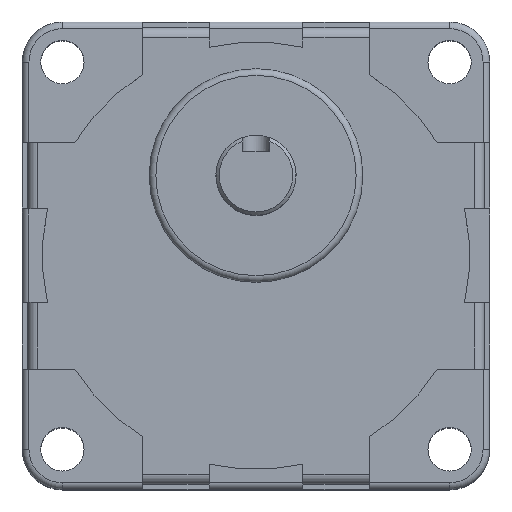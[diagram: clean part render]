
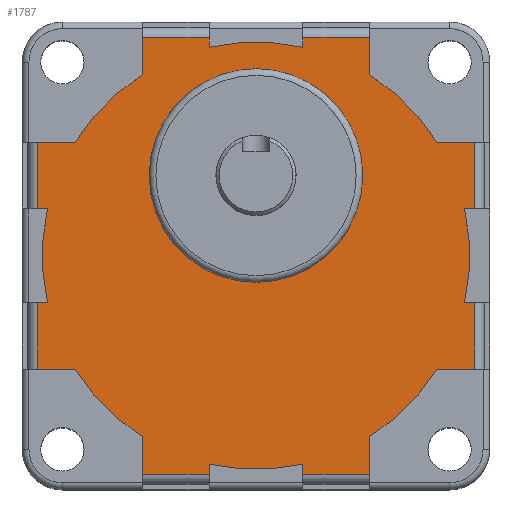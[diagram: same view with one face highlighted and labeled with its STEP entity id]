
A CAD part, top view. The second image highlights one B-rep face of the part: STEP entity #1787.
In plain terms, the highlighted planar face has unit normal (0, 0, 1).
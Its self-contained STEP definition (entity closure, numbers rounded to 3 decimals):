
#36=LINE('',#2727,#208);
#40=LINE('',#2739,#212);
#42=LINE('',#2745,#214);
#43=LINE('',#2749,#215);
#44=LINE('',#2751,#216);
#45=LINE('',#2753,#217);
#46=LINE('',#2757,#218);
#47=LINE('',#2759,#219);
#48=LINE('',#2761,#220);
#49=LINE('',#2765,#221);
#50=LINE('',#2767,#222);
#51=LINE('',#2769,#223);
#52=LINE('',#2773,#224);
#53=LINE('',#2775,#225);
#54=LINE('',#2777,#226);
#55=LINE('',#2781,#227);
#56=LINE('',#2783,#228);
#57=LINE('',#2785,#229);
#58=LINE('',#2789,#230);
#59=LINE('',#2791,#231);
#60=LINE('',#2793,#232);
#61=LINE('',#2796,#233);
#62=LINE('',#2798,#234);
#63=LINE('',#2801,#235);
#208=VECTOR('',#2156,10.);
#212=VECTOR('',#2166,10.);
#214=VECTOR('',#2172,5.589);
#215=VECTOR('',#2175,5.589);
#216=VECTOR('',#2176,10.);
#217=VECTOR('',#2177,1.475);
#218=VECTOR('',#2180,1.475);
#219=VECTOR('',#2181,10.);
#220=VECTOR('',#2182,5.589);
#221=VECTOR('',#2185,5.589);
#222=VECTOR('',#2186,10.);
#223=VECTOR('',#2187,1.475);
#224=VECTOR('',#2190,1.475);
#225=VECTOR('',#2191,10.);
#226=VECTOR('',#2192,5.589);
#227=VECTOR('',#2195,5.589);
#228=VECTOR('',#2196,10.);
#229=VECTOR('',#2197,1.475);
#230=VECTOR('',#2200,1.475);
#231=VECTOR('',#2201,10.);
#232=VECTOR('',#2202,5.589);
#233=VECTOR('',#2205,5.589);
#234=VECTOR('',#2206,1.475);
#235=VECTOR('',#2209,1.475);
#377=PLANE('',#1915);
#475=FACE_BOUND('',#620,.T.);
#504=FACE_OUTER_BOUND('',#619,.T.);
#619=EDGE_LOOP('',(#1313,#1314,#1315,#1316,#1317,#1318,#1319,#1320,#1321,
#1322,#1323,#1324,#1325,#1326,#1327,#1328,#1329,#1330,#1331,#1332,#1333,
#1334,#1335,#1336,#1337,#1338,#1339,#1340,#1341,#1342,#1343,#1344));
#620=EDGE_LOOP('',(#1345));
#729=CIRCLE('',#1906,16.);
#734=CIRCLE('',#1916,32.);
#735=CIRCLE('',#1917,32.);
#736=CIRCLE('',#1918,32.);
#737=CIRCLE('',#1919,32.);
#738=CIRCLE('',#1920,32.);
#739=CIRCLE('',#1921,32.);
#740=CIRCLE('',#1922,32.);
#741=CIRCLE('',#1923,32.);
#828=VERTEX_POINT('',#2716);
#829=VERTEX_POINT('',#2720);
#832=VERTEX_POINT('',#2725);
#836=VERTEX_POINT('',#2736);
#837=VERTEX_POINT('',#2738);
#839=VERTEX_POINT('',#2744);
#840=VERTEX_POINT('',#2746);
#841=VERTEX_POINT('',#2748);
#842=VERTEX_POINT('',#2750);
#843=VERTEX_POINT('',#2752);
#844=VERTEX_POINT('',#2754);
#845=VERTEX_POINT('',#2756);
#846=VERTEX_POINT('',#2758);
#847=VERTEX_POINT('',#2760);
#848=VERTEX_POINT('',#2762);
#849=VERTEX_POINT('',#2764);
#850=VERTEX_POINT('',#2766);
#851=VERTEX_POINT('',#2768);
#852=VERTEX_POINT('',#2770);
#853=VERTEX_POINT('',#2772);
#854=VERTEX_POINT('',#2774);
#855=VERTEX_POINT('',#2776);
#856=VERTEX_POINT('',#2778);
#857=VERTEX_POINT('',#2780);
#858=VERTEX_POINT('',#2782);
#859=VERTEX_POINT('',#2784);
#860=VERTEX_POINT('',#2786);
#861=VERTEX_POINT('',#2788);
#862=VERTEX_POINT('',#2790);
#863=VERTEX_POINT('',#2792);
#864=VERTEX_POINT('',#2794);
#865=VERTEX_POINT('',#2797);
#866=VERTEX_POINT('',#2799);
#1012=EDGE_CURVE('',#828,#828,#729,.T.);
#1016=EDGE_CURVE('',#832,#829,#36,.T.);
#1021=EDGE_CURVE('',#836,#837,#40,.T.);
#1024=EDGE_CURVE('',#832,#839,#42,.T.);
#1025=EDGE_CURVE('',#840,#839,#734,.T.);
#1026=EDGE_CURVE('',#841,#840,#43,.T.);
#1027=EDGE_CURVE('',#842,#841,#44,.T.);
#1028=EDGE_CURVE('',#843,#842,#45,.T.);
#1029=EDGE_CURVE('',#844,#843,#735,.T.);
#1030=EDGE_CURVE('',#844,#845,#46,.T.);
#1031=EDGE_CURVE('',#846,#845,#47,.T.);
#1032=EDGE_CURVE('',#846,#847,#48,.T.);
#1033=EDGE_CURVE('',#848,#847,#736,.T.);
#1034=EDGE_CURVE('',#849,#848,#49,.T.);
#1035=EDGE_CURVE('',#850,#849,#50,.T.);
#1036=EDGE_CURVE('',#851,#850,#51,.T.);
#1037=EDGE_CURVE('',#852,#851,#737,.T.);
#1038=EDGE_CURVE('',#852,#853,#52,.T.);
#1039=EDGE_CURVE('',#854,#853,#53,.T.);
#1040=EDGE_CURVE('',#854,#855,#54,.T.);
#1041=EDGE_CURVE('',#856,#855,#738,.T.);
#1042=EDGE_CURVE('',#857,#856,#55,.T.);
#1043=EDGE_CURVE('',#858,#857,#56,.T.);
#1044=EDGE_CURVE('',#859,#858,#57,.T.);
#1045=EDGE_CURVE('',#860,#859,#739,.T.);
#1046=EDGE_CURVE('',#860,#861,#58,.T.);
#1047=EDGE_CURVE('',#862,#861,#59,.T.);
#1048=EDGE_CURVE('',#862,#863,#60,.T.);
#1049=EDGE_CURVE('',#864,#863,#740,.T.);
#1050=EDGE_CURVE('',#837,#864,#61,.T.);
#1051=EDGE_CURVE('',#865,#836,#62,.T.);
#1052=EDGE_CURVE('',#866,#865,#741,.T.);
#1053=EDGE_CURVE('',#866,#829,#63,.T.);
#1313=ORIENTED_EDGE('',*,*,#1016,.F.);
#1314=ORIENTED_EDGE('',*,*,#1024,.T.);
#1315=ORIENTED_EDGE('',*,*,#1025,.F.);
#1316=ORIENTED_EDGE('',*,*,#1026,.F.);
#1317=ORIENTED_EDGE('',*,*,#1027,.F.);
#1318=ORIENTED_EDGE('',*,*,#1028,.F.);
#1319=ORIENTED_EDGE('',*,*,#1029,.F.);
#1320=ORIENTED_EDGE('',*,*,#1030,.T.);
#1321=ORIENTED_EDGE('',*,*,#1031,.F.);
#1322=ORIENTED_EDGE('',*,*,#1032,.T.);
#1323=ORIENTED_EDGE('',*,*,#1033,.F.);
#1324=ORIENTED_EDGE('',*,*,#1034,.F.);
#1325=ORIENTED_EDGE('',*,*,#1035,.F.);
#1326=ORIENTED_EDGE('',*,*,#1036,.F.);
#1327=ORIENTED_EDGE('',*,*,#1037,.F.);
#1328=ORIENTED_EDGE('',*,*,#1038,.T.);
#1329=ORIENTED_EDGE('',*,*,#1039,.F.);
#1330=ORIENTED_EDGE('',*,*,#1040,.T.);
#1331=ORIENTED_EDGE('',*,*,#1041,.F.);
#1332=ORIENTED_EDGE('',*,*,#1042,.F.);
#1333=ORIENTED_EDGE('',*,*,#1043,.F.);
#1334=ORIENTED_EDGE('',*,*,#1044,.F.);
#1335=ORIENTED_EDGE('',*,*,#1045,.F.);
#1336=ORIENTED_EDGE('',*,*,#1046,.T.);
#1337=ORIENTED_EDGE('',*,*,#1047,.F.);
#1338=ORIENTED_EDGE('',*,*,#1048,.T.);
#1339=ORIENTED_EDGE('',*,*,#1049,.F.);
#1340=ORIENTED_EDGE('',*,*,#1050,.F.);
#1341=ORIENTED_EDGE('',*,*,#1021,.F.);
#1342=ORIENTED_EDGE('',*,*,#1051,.F.);
#1343=ORIENTED_EDGE('',*,*,#1052,.F.);
#1344=ORIENTED_EDGE('',*,*,#1053,.T.);
#1345=ORIENTED_EDGE('',*,*,#1012,.F.);
#1787=ADVANCED_FACE('',(#504,#475),#377,.T.);
#1906=AXIS2_PLACEMENT_3D('',#2717,#2145,#2146);
#1915=AXIS2_PLACEMENT_3D('',#2743,#2170,#2171);
#1916=AXIS2_PLACEMENT_3D('',#2747,#2173,#2174);
#1917=AXIS2_PLACEMENT_3D('',#2755,#2178,#2179);
#1918=AXIS2_PLACEMENT_3D('',#2763,#2183,#2184);
#1919=AXIS2_PLACEMENT_3D('',#2771,#2188,#2189);
#1920=AXIS2_PLACEMENT_3D('',#2779,#2193,#2194);
#1921=AXIS2_PLACEMENT_3D('',#2787,#2198,#2199);
#1922=AXIS2_PLACEMENT_3D('',#2795,#2203,#2204);
#1923=AXIS2_PLACEMENT_3D('',#2800,#2207,#2208);
#2145=DIRECTION('center_axis',(0.,0.,1.));
#2146=DIRECTION('ref_axis',(-1.,0.,0.));
#2156=DIRECTION('',(0.,-1.,0.));
#2166=DIRECTION('',(0.,-1.,0.));
#2170=DIRECTION('center_axis',(0.,0.,1.));
#2171=DIRECTION('ref_axis',(1.,0.,0.));
#2172=DIRECTION('',(-1.,0.,0.));
#2173=DIRECTION('center_axis',(0.,0.,-1.));
#2174=DIRECTION('ref_axis',(-1.,0.,0.));
#2175=DIRECTION('',(0.,-1.,0.));
#2176=DIRECTION('',(1.,0.,0.));
#2177=DIRECTION('',(0.,1.,0.));
#2178=DIRECTION('center_axis',(0.,0.,-1.));
#2179=DIRECTION('ref_axis',(-1.,0.,0.));
#2180=DIRECTION('',(0.,1.,0.));
#2181=DIRECTION('',(1.,0.,0.));
#2182=DIRECTION('',(0.,-1.,0.));
#2183=DIRECTION('center_axis',(0.,0.,-1.));
#2184=DIRECTION('ref_axis',(-1.,0.,0.));
#2185=DIRECTION('',(1.,0.,0.));
#2186=DIRECTION('',(0.,1.,0.));
#2187=DIRECTION('',(-1.,0.,0.));
#2188=DIRECTION('center_axis',(0.,0.,-1.));
#2189=DIRECTION('ref_axis',(-1.,0.,0.));
#2190=DIRECTION('',(-1.,0.,0.));
#2191=DIRECTION('',(0.,1.,0.));
#2192=DIRECTION('',(1.,0.,0.));
#2193=DIRECTION('center_axis',(0.,0.,-1.));
#2194=DIRECTION('ref_axis',(-1.,0.,0.));
#2195=DIRECTION('',(0.,1.,0.));
#2196=DIRECTION('',(-1.,0.,0.));
#2197=DIRECTION('',(0.,-1.,0.));
#2198=DIRECTION('center_axis',(0.,0.,-1.));
#2199=DIRECTION('ref_axis',(-1.,0.,0.));
#2200=DIRECTION('',(0.,-1.,0.));
#2201=DIRECTION('',(-1.,0.,0.));
#2202=DIRECTION('',(0.,1.,0.));
#2203=DIRECTION('center_axis',(0.,0.,-1.));
#2204=DIRECTION('ref_axis',(-1.,0.,0.));
#2205=DIRECTION('',(-1.,0.,0.));
#2206=DIRECTION('',(1.,0.,0.));
#2207=DIRECTION('center_axis',(0.,0.,-1.));
#2208=DIRECTION('ref_axis',(-1.,0.,0.));
#2209=DIRECTION('',(1.,0.,0.));
#2716=CARTESIAN_POINT('',(16.,12.,47.2));
#2717=CARTESIAN_POINT('Origin',(0.,12.,47.2));
#2720=CARTESIAN_POINT('',(32.7,7.,47.2));
#2725=CARTESIAN_POINT('',(32.7,17.,47.2));
#2727=CARTESIAN_POINT('',(32.7,8.5,47.2));
#2736=CARTESIAN_POINT('',(32.7,-7.,47.2));
#2738=CARTESIAN_POINT('',(32.7,-17.,47.2));
#2739=CARTESIAN_POINT('',(32.7,-8.5,47.2));
#2743=CARTESIAN_POINT('Origin',(0.,0.,47.2));
#2744=CARTESIAN_POINT('',(27.111,17.,47.2));
#2745=CARTESIAN_POINT('',(27.111,17.,47.2));
#2746=CARTESIAN_POINT('',(17.,27.111,47.2));
#2747=CARTESIAN_POINT('Origin',(0.,0.,47.2));
#2748=CARTESIAN_POINT('',(17.,32.7,47.2));
#2749=CARTESIAN_POINT('',(17.,27.111,47.2));
#2750=CARTESIAN_POINT('',(7.,32.7,47.2));
#2751=CARTESIAN_POINT('',(8.5,32.7,47.2));
#2752=CARTESIAN_POINT('',(7.,31.225,47.2));
#2753=CARTESIAN_POINT('',(7.,35.,47.2));
#2754=CARTESIAN_POINT('',(-7.,31.225,47.2));
#2755=CARTESIAN_POINT('Origin',(0.,0.,47.2));
#2756=CARTESIAN_POINT('',(-7.,32.7,47.2));
#2757=CARTESIAN_POINT('',(-7.,35.,47.2));
#2758=CARTESIAN_POINT('',(-17.,32.7,47.2));
#2759=CARTESIAN_POINT('',(-8.5,32.7,47.2));
#2760=CARTESIAN_POINT('',(-17.,27.111,47.2));
#2761=CARTESIAN_POINT('',(-17.,27.111,47.2));
#2762=CARTESIAN_POINT('',(-27.111,17.,47.2));
#2763=CARTESIAN_POINT('Origin',(0.,0.,47.2));
#2764=CARTESIAN_POINT('',(-32.7,17.,47.2));
#2765=CARTESIAN_POINT('',(-27.111,17.,47.2));
#2766=CARTESIAN_POINT('',(-32.7,7.,47.2));
#2767=CARTESIAN_POINT('',(-32.7,8.5,47.2));
#2768=CARTESIAN_POINT('',(-31.225,7.,47.2));
#2769=CARTESIAN_POINT('',(-35.,7.,47.2));
#2770=CARTESIAN_POINT('',(-31.225,-7.,47.2));
#2771=CARTESIAN_POINT('Origin',(0.,0.,47.2));
#2772=CARTESIAN_POINT('',(-32.7,-7.,47.2));
#2773=CARTESIAN_POINT('',(-35.,-7.,47.2));
#2774=CARTESIAN_POINT('',(-32.7,-17.,47.2));
#2775=CARTESIAN_POINT('',(-32.7,-8.5,47.2));
#2776=CARTESIAN_POINT('',(-27.111,-17.,47.2));
#2777=CARTESIAN_POINT('',(-27.111,-17.,47.2));
#2778=CARTESIAN_POINT('',(-17.,-27.111,47.2));
#2779=CARTESIAN_POINT('Origin',(0.,0.,47.2));
#2780=CARTESIAN_POINT('',(-17.,-32.7,47.2));
#2781=CARTESIAN_POINT('',(-17.,-27.111,47.2));
#2782=CARTESIAN_POINT('',(-7.,-32.7,47.2));
#2783=CARTESIAN_POINT('',(-8.5,-32.7,47.2));
#2784=CARTESIAN_POINT('',(-7.,-31.225,47.2));
#2785=CARTESIAN_POINT('',(-7.,-35.,47.2));
#2786=CARTESIAN_POINT('',(7.,-31.225,47.2));
#2787=CARTESIAN_POINT('Origin',(0.,0.,47.2));
#2788=CARTESIAN_POINT('',(7.,-32.7,47.2));
#2789=CARTESIAN_POINT('',(7.,-35.,47.2));
#2790=CARTESIAN_POINT('',(17.,-32.7,47.2));
#2791=CARTESIAN_POINT('',(8.5,-32.7,47.2));
#2792=CARTESIAN_POINT('',(17.,-27.111,47.2));
#2793=CARTESIAN_POINT('',(17.,-27.111,47.2));
#2794=CARTESIAN_POINT('',(27.111,-17.,47.2));
#2795=CARTESIAN_POINT('Origin',(0.,0.,47.2));
#2796=CARTESIAN_POINT('',(27.111,-17.,47.2));
#2797=CARTESIAN_POINT('',(31.225,-7.,47.2));
#2798=CARTESIAN_POINT('',(35.,-7.,47.2));
#2799=CARTESIAN_POINT('',(31.225,7.,47.2));
#2800=CARTESIAN_POINT('Origin',(0.,0.,47.2));
#2801=CARTESIAN_POINT('',(35.,7.,47.2));
